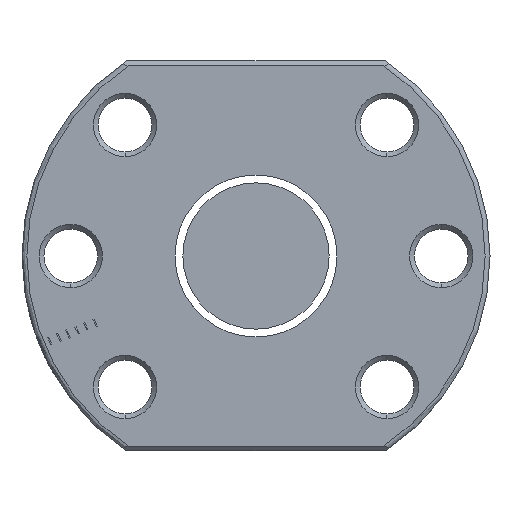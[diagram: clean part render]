
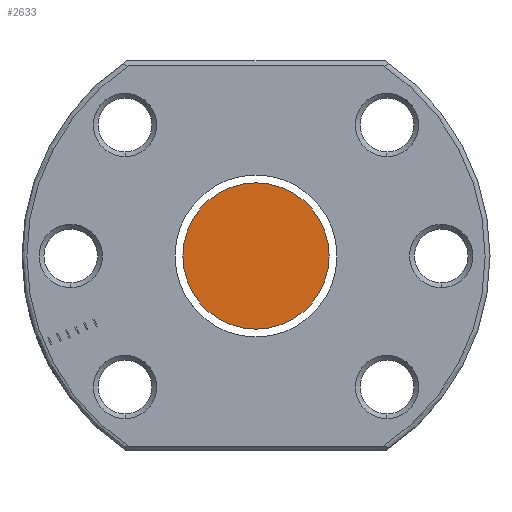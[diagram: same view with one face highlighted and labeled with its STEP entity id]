
A CAD part, left-side view. The second image highlights one B-rep face of the part: STEP entity #2633.
In plain terms, the highlighted planar face has unit normal (-1, 0, 0).
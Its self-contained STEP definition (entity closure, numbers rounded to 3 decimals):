
#103 = EDGE_CURVE ( 'NONE', #1379, #247, #1843, .T. ) ;
#247 = VERTEX_POINT ( 'NONE', #413 ) ;
#249 = CARTESIAN_POINT ( 'NONE',  ( -270., 0., 0. ) ) ;
#413 = CARTESIAN_POINT ( 'NONE',  ( -270., 0., 7.5 ) ) ;
#709 = CARTESIAN_POINT ( 'NONE',  ( -270., 0., 0. ) ) ;
#1036 = EDGE_CURVE ( 'NONE', #247, #1379, #3668, .T. ) ;
#1094 = ORIENTED_EDGE ( 'NONE', *, *, #1036, .F. ) ;
#1310 = CARTESIAN_POINT ( 'NONE',  ( -270., 0., -7.5 ) ) ;
#1379 = VERTEX_POINT ( 'NONE', #1310 ) ;
#1704 = DIRECTION ( 'NONE',  ( -1., 0., 0. ) ) ;
#1843 = CIRCLE ( 'NONE', #4975, 7.5 ) ;
#1977 = DIRECTION ( 'NONE',  ( 1., 0., 0. ) ) ;
#2189 = ORIENTED_EDGE ( 'NONE', *, *, #103, .F. ) ;
#2538 = CARTESIAN_POINT ( 'NONE',  ( -270., 0., 0. ) ) ;
#2574 = EDGE_LOOP ( 'NONE', ( #2189, #1094 ) ) ;
#2633 = ADVANCED_FACE ( 'NONE', ( #3435 ), #3820, .T. ) ;
#3435 = FACE_OUTER_BOUND ( 'NONE', #2574, .T. ) ;
#3668 = CIRCLE ( 'NONE', #4030, 7.5 ) ;
#3674 = AXIS2_PLACEMENT_3D ( 'NONE', #2538, #1704, #4635 ) ;
#3680 = DIRECTION ( 'NONE',  ( 0., 0., -1. ) ) ;
#3820 = PLANE ( 'NONE',  #3674 ) ;
#4030 = AXIS2_PLACEMENT_3D ( 'NONE', #709, #5410, #4054 ) ;
#4054 = DIRECTION ( 'NONE',  ( 0., 0., -1. ) ) ;
#4635 = DIRECTION ( 'NONE',  ( 0., 0., 1. ) ) ;
#4975 = AXIS2_PLACEMENT_3D ( 'NONE', #249, #1977, #3680 ) ;
#5410 = DIRECTION ( 'NONE',  ( 1., 0., 0. ) ) ;
